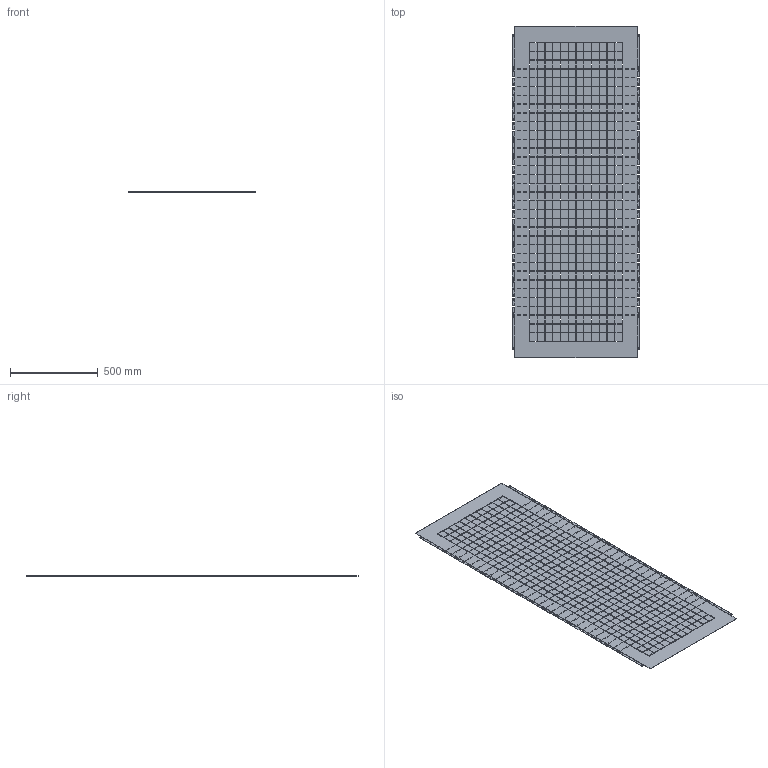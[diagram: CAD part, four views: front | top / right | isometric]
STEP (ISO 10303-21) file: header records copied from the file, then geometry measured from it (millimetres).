
FILE_DESCRIPTION (( 'STEP AP203' ), '1' );
FILE_NAME ('MA1.800.060820.03.01 Ïàíåëü âåðòèêàëüíàÿ äëÿ ñåêöèîíèðîâàíèÿ Ã800 Â2000 ìì EKF.STEP', '2024-12-02T14:03:56', ( '' ), ( '' ), 'SwSTEP 2.0', 'SolidWorks 2021', '' );
FILE_SCHEMA (( 'CONFIG_CONTROL_DESIGN' ));
Products named in the file (1): MA1.800.060820.03.01 Ïàíåëü âåðòèêàëüíàÿ äëÿ ñåêöèîíèðîâàíèÿ Ã800 Â2000 ìì EKF
Bounding box: 726.6 x 1888 x 1 mm (x, y, z)
Volume: 1277608.2 mm3; surface area: 2649054.9 mm2
Topology: 1 solids, 1 shells, 4718 faces, 14148 edges, 9432 vertices
Faces by surface type: plane 4590, cylinder 128
Entity records: 160457 total; most frequent: CARTESIAN_POINT 28299, ORIENTED_EDGE 28296, DIRECTION 23842, EDGE_CURVE 14148, VECTOR 13892, LINE 13892, VERTEX_POINT 9432, EDGE_LOOP 6954
